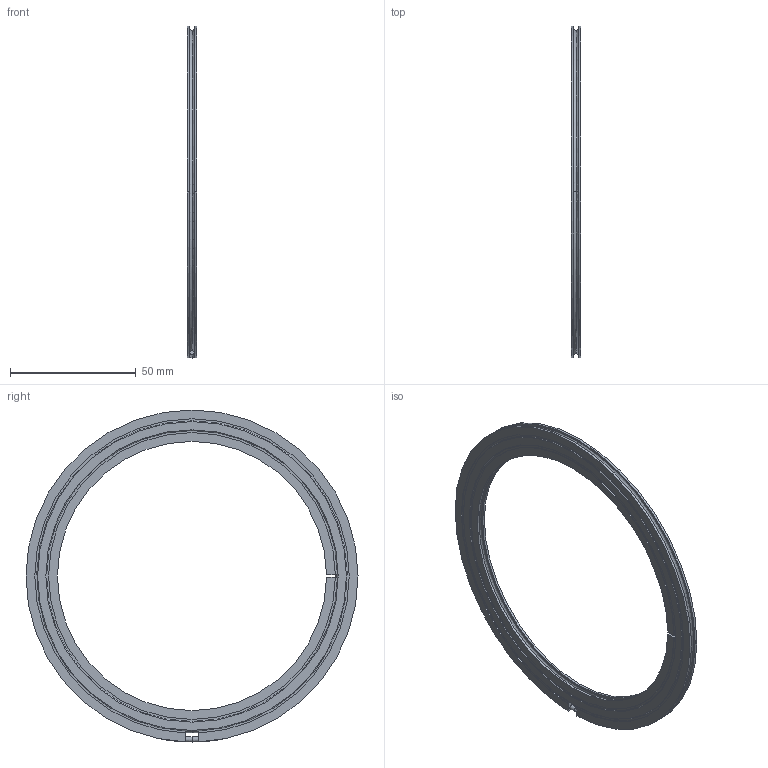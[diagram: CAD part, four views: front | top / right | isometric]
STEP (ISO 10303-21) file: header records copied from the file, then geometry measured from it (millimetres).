
FILE_DESCRIPTION((''),'2;1');
FILE_NAME('W:\212-322.stp','2004-01-08T16:10:13',('KAA'),(''),'Autodesk Inventor (R) 6.0','Autodesk Inventor (R) 6.0','');
FILE_SCHEMA(('CONFIG_CONTROL_DESIGN'));
Length unit declared in the file: millimetre
Products named in the file (1): 212-322
Bounding box: 3.9 x 132 x 132 mm (x, y, z)
Volume: 15498.3 mm3; surface area: 15020.5 mm2
Topology: 1 solids, 1 shells, 64 faces, 191 edges, 127 vertices
Faces by surface type: cylinder 24, plane 20, torus 12, bspline 8
Entity records: 2809 total; most frequent: CARTESIAN_POINT 939, DIRECTION 400, ORIENTED_EDGE 382, EDGE_CURVE 191, AXIS2_PLACEMENT_3D 172, VERTEX_POINT 127, CIRCLE 115, EDGE_LOOP 66
